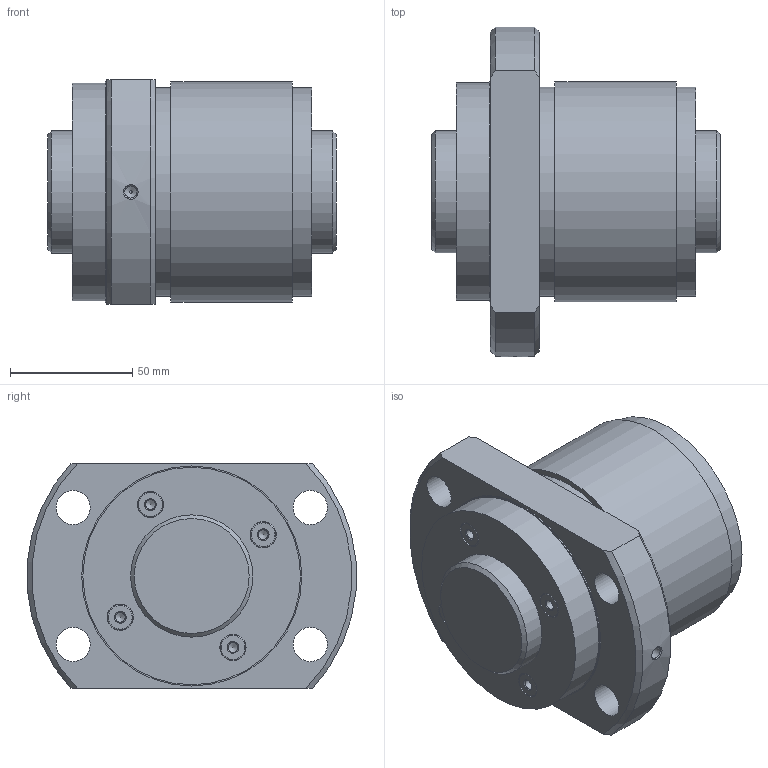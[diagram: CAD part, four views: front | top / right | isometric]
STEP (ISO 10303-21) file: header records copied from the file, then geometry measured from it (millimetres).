
FILE_DESCRIPTION(/* description */ ('STEP AP203'),/* implementation_level */ '2;1');
FILE_NAME(/* name */ 'WGF50100-1G1+118LC3_0_13_0_0',/* time_stamp */ '2025-01-16T06:28:29+01:00',/* author */ ('License CC BY-ND 4.0'),/* organization */ ('CADENAS'),/* preprocessor_version */ 'ST-DEVELOPER v19.3',/* originating_system */ 'PARTsolutions',/* authorisation */ ' ');
FILE_SCHEMA (('CONFIG_CONTROL_DESIGN'));
Length unit declared in the file: millimetre
Products named in the file (3): WGF50100-1G1+118LC3_0_13_0_0; 0130WGF50100-10Shaft; RR0130WGF50100-1Nut
Assembly tree (2 placements, depth 2):
  WGF50100-1G1+118LC3_0_13_0_0
    0130WGF50100-10Shaft
    RR0130WGF50100-1Nut
Bounding box: 118 x 134.77 x 92 mm (x, y, z)
Volume: 737430.8 mm3; surface area: 92851.5 mm2
Topology: 2 solids, 2 shells, 65 faces, 132 edges, 84 vertices
Faces by surface type: cylinder 26, plane 19, cone 16, torus 4
Full cylindrical faces by diameter (mm): 4 x4, 4.917 x1, 10.5 x4, 10.7 x4, 14 x4, 50 x2, 85.5 x2, 89 x1, 90 x2
Entity records: 1583 total; most frequent: DIRECTION 276, CARTESIAN_POINT 276, ORIENTED_EDGE 168, FACE_BOUND 134, AXIS2_PLACEMENT_3D 134, EDGE_LOOP 130, EDGE_CURVE 84, VERTEX_POINT 80
